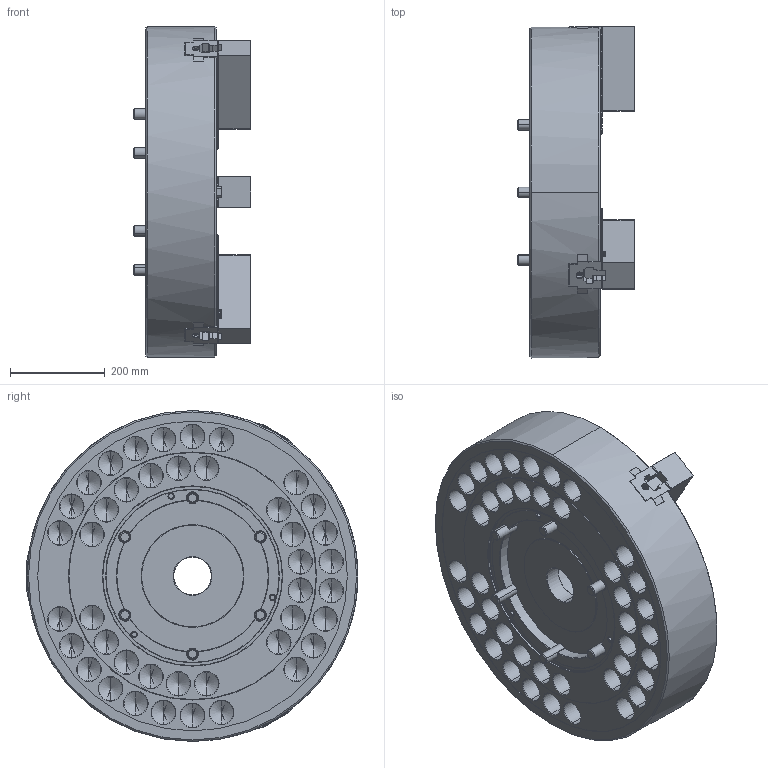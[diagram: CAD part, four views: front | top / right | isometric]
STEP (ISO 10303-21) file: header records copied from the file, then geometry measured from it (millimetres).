
FILE_DESCRIPTION (( 'STEP AP214' ), '1' );
FILE_NAME ('UC_B-28.STEP', '2026-01-22T05:25:05', ( '' ), ( '' ), 'SwSTEP 2.0', 'SolidWorks 2022', '' );
FILE_SCHEMA (( 'AUTOMOTIVE_DESIGN' ));
Length unit declared in the file: millimetre
Products named in the file (9): UC_B-28; Copy of 61P329613^HP用3Dモデル_B-28_61P264033; Copy of 0030120060^HP用3Dモデル_B-28_61P264033; Copy of 0030106016^HP用3Dモデル_B-28_61P264033; Copy of P32262^HP用3Dモデル_B-28_61P264033; Copy of 61P405602^HP用3Dモデル_B-28_61P264033; Copy of 61P809786^HP用3Dモデル_B-28_61P264033_社外提出用; Part6^HP用3Dモデル_B-28_61P264033; Copy of 0030122150^HP用3Dモデル_B-28_61P264033
Assembly tree (27 placements, depth 2):
  UC_B-28
    Copy of P32262^HP用3Dモデル_B-28_61P264033  x3
    Copy of 61P405602^HP用3Dモデル_B-28_61P264033  x3
    Copy of 61P809786^HP用3Dモデル_B-28_61P264033_社外提出用
    Copy of 61P329613^HP用3Dモデル_B-28_61P264033
    Copy of 0030120060^HP用3Dモデル_B-28_61P264033  x6
    Copy of 0030122150^HP用3Dモデル_B-28_61P264033  x6
    Copy of 0030106016^HP用3Dモデル_B-28_61P264033  x6
    Part6^HP用3Dモデル_B-28_61P264033
Bounding box: 248 x 702.27 x 700 mm (x, y, z)
Volume: 46059425.4 mm3; surface area: 2780164.6 mm2
Topology: 27 solids, 33 shells, 8873 faces, 25158 edges, 16512 vertices
Faces by surface type: plane 5412, cylinder 1718, bspline 983, cone 685, torus 69, sphere 6
Entity records: 251750 total; most frequent: CARTESIAN_POINT 78920, ORIENTED_EDGE 39304, DIRECTION 30649, EDGE_CURVE 19652, LINE 14383, VECTOR 14383, VERTEX_POINT 12959, AXIS2_PLACEMENT_3D 8133
